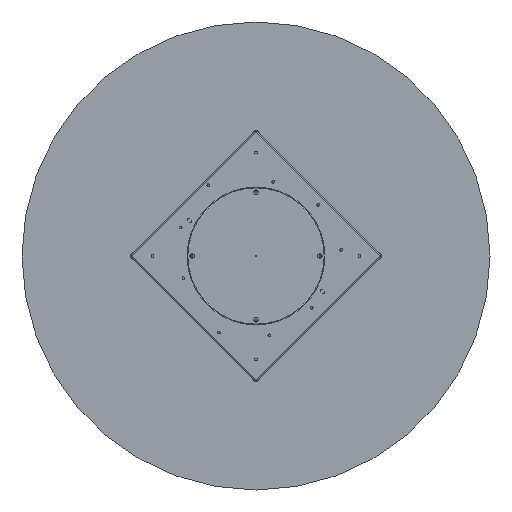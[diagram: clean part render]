
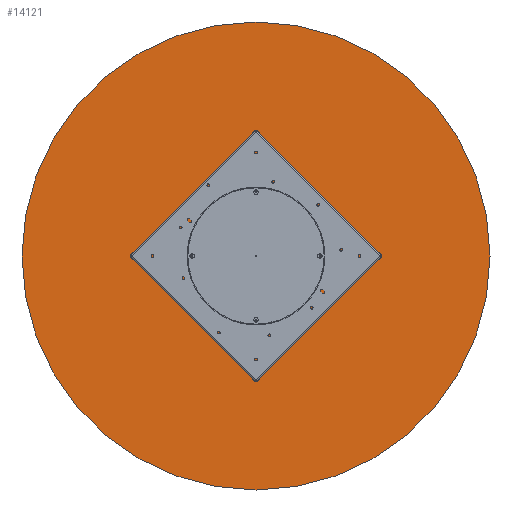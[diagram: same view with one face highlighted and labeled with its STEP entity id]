
A CAD part, front view. The second image highlights one B-rep face of the part: STEP entity #14121.
In plain terms, the highlighted planar face has unit normal (0, -1, 0).
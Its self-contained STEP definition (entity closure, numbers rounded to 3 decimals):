
#634 = DIRECTION ( 'NONE',  ( 0., 0., -1. ) ) ;
#990 = CARTESIAN_POINT ( 'NONE',  ( 0., 0., 900. ) ) ;
#1443 = CIRCLE ( 'NONE', #12450, 900. ) ;
#3292 = AXIS2_PLACEMENT_3D ( 'NONE', #13379, #7516, #7597 ) ;
#4094 = CARTESIAN_POINT ( 'NONE',  ( 0., 0., 0. ) ) ;
#4401 = PLANE ( 'NONE',  #11094 ) ;
#5049 = CIRCLE ( 'NONE', #3292, 900. ) ;
#6375 = CARTESIAN_POINT ( 'NONE',  ( 0., 0., -900. ) ) ;
#6809 = VERTEX_POINT ( 'NONE', #6375 ) ;
#7298 = ORIENTED_EDGE ( 'NONE', *, *, #12611, .T. ) ;
#7516 = DIRECTION ( 'NONE',  ( 0., -1., 0. ) ) ;
#7597 = DIRECTION ( 'NONE',  ( 0., 0., -1. ) ) ;
#7771 = FACE_OUTER_BOUND ( 'NONE', #8896, .T. ) ;
#7811 = EDGE_CURVE ( 'NONE', #8430, #6809, #1443, .T. ) ;
#8430 = VERTEX_POINT ( 'NONE', #990 ) ;
#8873 = DIRECTION ( 'NONE',  ( 0., -1., 0. ) ) ;
#8896 = EDGE_LOOP ( 'NONE', ( #7298, #11575 ) ) ;
#9596 = DIRECTION ( 'NONE',  ( 0., -1., 0. ) ) ;
#11094 = AXIS2_PLACEMENT_3D ( 'NONE', #4094, #8873, #634 ) ;
#11575 = ORIENTED_EDGE ( 'NONE', *, *, #7811, .T. ) ;
#12450 = AXIS2_PLACEMENT_3D ( 'NONE', #14795, #9596, #13251 ) ;
#12611 = EDGE_CURVE ( 'NONE', #6809, #8430, #5049, .T. ) ;
#13251 = DIRECTION ( 'NONE',  ( 0., 0., -1. ) ) ;
#13379 = CARTESIAN_POINT ( 'NONE',  ( 0., 0., 0. ) ) ;
#14121 = ADVANCED_FACE ( 'NONE', ( #7771 ), #4401, .T. ) ;
#14795 = CARTESIAN_POINT ( 'NONE',  ( 0., 0., 0. ) ) ;
